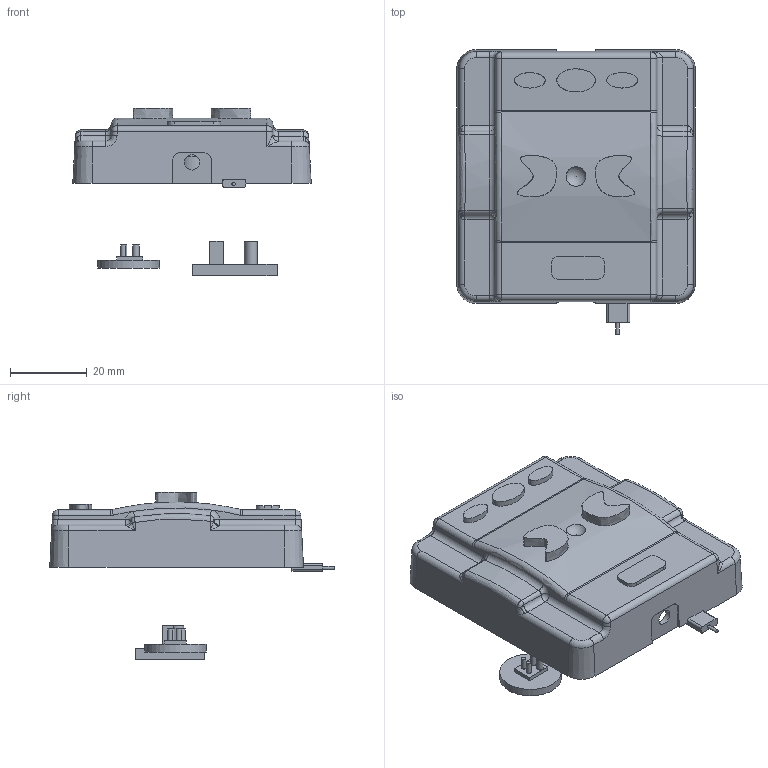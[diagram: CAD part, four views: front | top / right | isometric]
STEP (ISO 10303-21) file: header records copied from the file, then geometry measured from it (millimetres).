
FILE_DESCRIPTION(/* description */ (''),/* implementation_level */ '2;1');
FILE_NAME(/* name */ '样题3.stp',/* time_stamp */ '2022-03-14T20:17:22+08:00',/* author */ (''),/* organization */ (''),/* preprocessor_version */ 'ST-DEVELOPER v16',/* originating_system */ 'SIEMENS PLM Software NX 10.0',/* authorisation */ '');
FILE_SCHEMA (('AUTOMOTIVE_DESIGN { 1 0 10303 214 3 1 1 1 }'));
Length unit declared in the file: millimetre
Products named in the file (10): 电气元件3; 屏; 外接件1; 按钮3; 按钮2; 按钮1; 电气元件2; 电气元件1; 前盖; 样题3
Assembly tree (10 placements, depth 2):
  样题3
    前盖
    电气元件1
    电气元件2
    按钮1
    按钮2  x2
    按钮3
    外接件1
    屏
    电气元件3
Bounding box: 62 x 74 x 43.56 mm (x, y, z)
Volume: 20441.4 mm3; surface area: 22934.9 mm2
Topology: 11 solids, 11 shells, 350 faces, 845 edges, 529 vertices
Faces by surface type: plane 186, cylinder 101, bspline 20, torus 18, sphere 11, extrusion 10, cone 4
Full cylindrical faces by diameter (mm): 0.869 x1, 1.061 x1, 1.262 x1, 1.349 x1, 1.683 x1, 2.896 x3, 3 x4, 3.324 x1, 3.5 x4, 4 x2, 6 x4, 8 x1, 16 x1
Entity records: 11431 total; most frequent: CARTESIAN_POINT 3209, DIRECTION 1689, ORIENTED_EDGE 1562, EDGE_CURVE 781, AXIS2_PLACEMENT_3D 604, VERTEX_POINT 515, VECTOR 481, LINE 472
